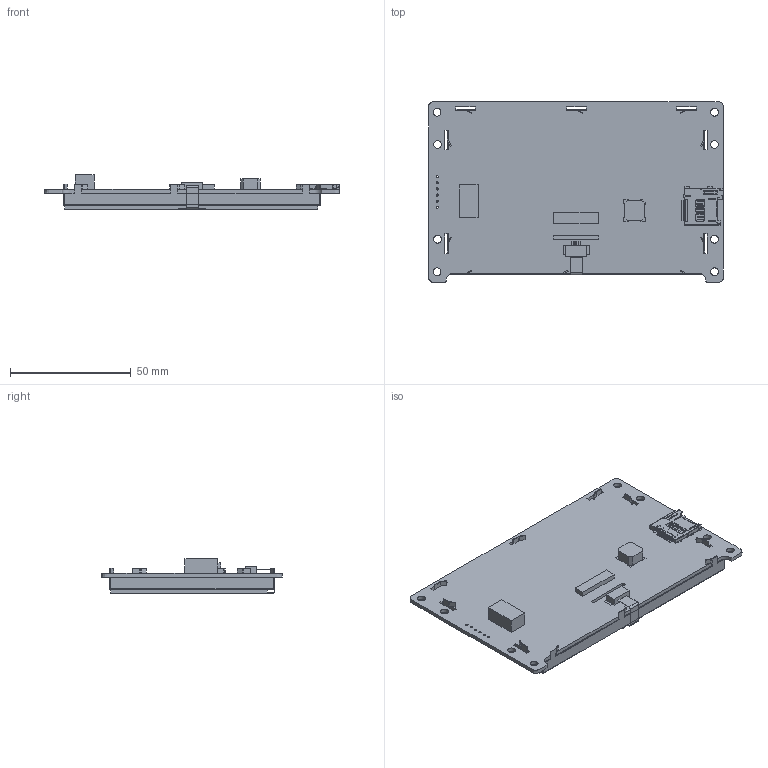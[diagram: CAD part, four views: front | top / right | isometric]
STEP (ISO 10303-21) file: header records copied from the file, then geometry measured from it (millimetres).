
FILE_DESCRIPTION(/* description */ (''),/* implementation_level */ '2;1');
FILE_NAME(/* name */ '',/* time_stamp */ '2023-06-14T14:21:01+08:00',/* author */ (''),/* organization */ (''),/* preprocessor_version */ 'ST-DEVELOPER v11',/* originating_system */ 'SIEMENS PLM Software NX 7.5',/* authorisation */ '');
FILE_SCHEMA (('AP203_CONFIGURATION_CONTROLLED_3D_DESIGN_OF_MECHANICAL_PARTS_AND_ASSEMBLIES_MIM_LF'));
Length unit declared in the file: millimetre
Products named in the file (1): SDWn043C33T
Bounding box: 121.9 x 74.7 x 14.25 mm (x, y, z)
Volume: 26385.9 mm3; surface area: 43728 mm2
Topology: 14 solids, 14 shells, 1230 faces, 3497 edges, 2271 vertices
Faces by surface type: plane 940, cylinder 288, cone 1, extrusion 1
Full cylindrical faces by diameter (mm): 0.889 x6, 3.2 x8
Entity records: 40636 total; most frequent: CARTESIAN_POINT 7347, ORIENTED_EDGE 6964, DIRECTION 6450, EDGE_CURVE 3482, VECTOR 2826, LINE 2825, VERTEX_POINT 2271, AXIS2_PLACEMENT_3D 1812
